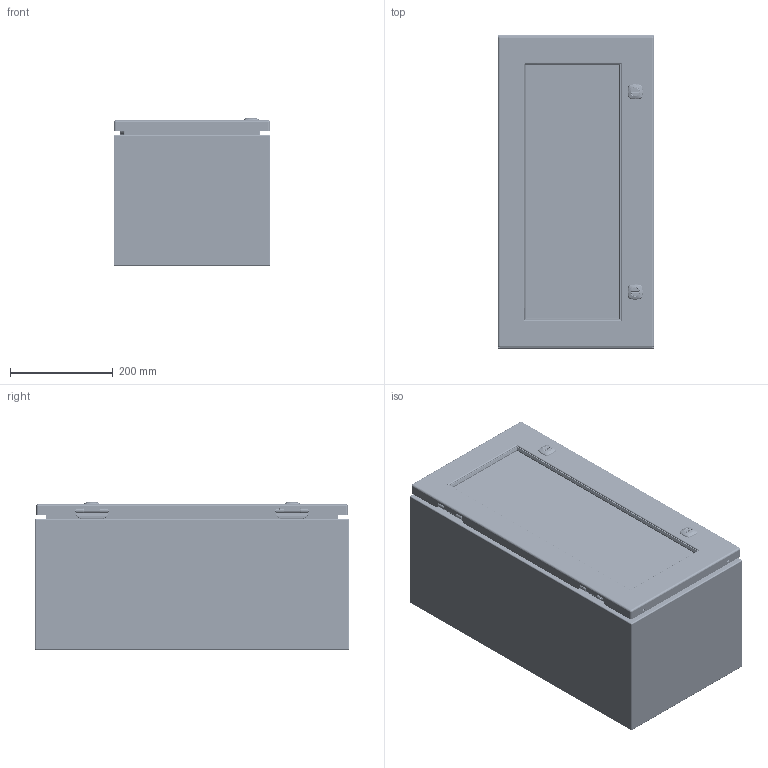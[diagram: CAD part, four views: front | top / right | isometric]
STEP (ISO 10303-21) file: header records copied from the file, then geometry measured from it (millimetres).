
FILE_DESCRIPTION(/* description */ ('5412ESW 24" x 12" x 10" Assembly'),/* implementation_level */ '2;1');
FILE_NAME(/* name */ 'C:\Vault_Workspace\Inventor_Dwg\BoxCad\Result\5412ESW241210\e-mail\3D\5412ESW241210.stp',/* time_stamp */ '2021-09-28T14:53:37-04:00',/* author */ ('BoxCad'),/* organization */ (''),/* preprocessor_version */ 'ST-DEVELOPER v18.1',/* originating_system */ 'Autodesk Inventor 2020',/* authorisation */ '');
FILE_SCHEMA (('AUTOMOTIVE_DESIGN { 1 0 10303 214 3 1 1 }'));
Products named in the file (56): 5412ESW241210; 5412ESW241210B; 5412ESW241210B-P; STK-Q-16005; STUD_M6 x 16mm; STK-S-00100; STK-Q-07610; 881SP2412G; 881SP2412G-P; STK-Q-07310; 5412ESW241210C; 5412ESW241210C-P; 5412ESW241210G; STK-K-09800; STK-K-09800-2; STK-Q-33014; STK-Q-90398; STK-Q-40095; STK-Q-63410; 5412ESW241210LX; 5412ESW241210LXG; 5412ESW241210_STK_G_02705; STK-Q-16052; 5412ESW241210_STK-A-60703; STK-Q-60703-2; STK-Q-60703-1; STK-Q-60703-3; STK-Q-60703-4; STK-Q-60702-A; STK-Q-60703-B; STK-Q-60703-C; STK-Q-60701; STK-Q-60701_1; STK-Q-60701_2; STK-Q-60701_3; STK-Q-60701_4; STK-Q-60701_5; STK-Q-60701-A; STK-Q-60701-B; STK-Q-60701-C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
Assembly tree (116 placements, depth 5):
  5412ESW241210
    5412ESW241210B
      5412ESW241210B-P
      STK-Q-16005  x4
      STK-P-02400S
      STUD_M6 x 16mm
      STK-S-00100
    STK-Q-07610  x4
    881SP2412G
      881SP2412G-P
    STK-Q-07310  x4
    5412ESW241210C
      5412ESW241210C-P
      5412ESW241210G
      STK-K-09800
        STK-Q-33014
        STK-Q-90398
        STK-Q-40095  x2
        STK-Q-63410  x2
      STK-K-09800-2
        STK-Q-33014
        STK-Q-90398
        STK-Q-40095  x2
        STK-Q-63410  x2
      5412ESW241210LX
      5412ESW241210LXG
      5412ESW241210_STK_G_02705
      STK-Q-16052  x10
      5412ESW241210_STK-A-60703
        STK-Q-60703-2
          STK-Q-60702-A
          STK-Q-60703-B
          STK-Q-60703-C
        STK-Q-60703-1
          STK-Q-60702-A
          STK-Q-60703-B
          STK-Q-60703-C
        STK-Q-60703-3
          STK-Q-60702-A
          STK-Q-60703-B
          STK-Q-60703-C
        STK-Q-60703-4
          STK-Q-60702-A
          STK-Q-60703-B
          STK-Q-60703-C
      STK-Q-60701
        STK-Q-60701-A
        STK-Q-60701-B
        STK-Q-60701-C
      STK-Q-60701_1
        STK-Q-60701-A
        STK-Q-60701-B
        STK-Q-60701-C
      STK-Q-60701_2
        STK-Q-60701-A
        STK-Q-60701-B
        STK-Q-60701-C
      STK-Q-60701_3
        STK-Q-60701-A
        STK-Q-60701-B
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Bounding box: 304.87 x 609.6 x 287.15 mm (x, y, z)
Volume: 2660257.3 mm3; surface area: 2563587.9 mm2
Topology: 93 solids, 93 shells, 18069 faces, 48932 edges, 31379 vertices
Faces by surface type: bspline 6430, plane 6096, cylinder 4340, torus 657, sphere 304, cone 242
Full cylindrical faces by diameter (mm): 0 x1, 0.75 x15, 0.762 x15, 1 x8, 1.1 x8, 3.2 x4, 4.4 x8, 4.5 x10, 4.521 x8, 4.75 x2, 4.85 x16, 4.95 x4, 5 x10, 5.1 x64, 5.156 x4, 5.6 x2, 5.9 x29, 6.65 x4, 6.85 x16, 6.894 x8, 7 x20, 7.3 x2, 7.366 x14, 7.9 x4, 8 x24, 8.382 x2, 9 x10, 9.5 x10, 9.6 x2, 9.906 x4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
Entity records: 201415 total; most frequent: CARTESIAN_POINT 80779, ORIENTED_EDGE 27500, DIRECTION 20085, EDGE_CURVE 13750, VERTEX_POINT 8730, AXIS2_PLACEMENT_3D 6937, LINE 6211, VECTOR 6211
